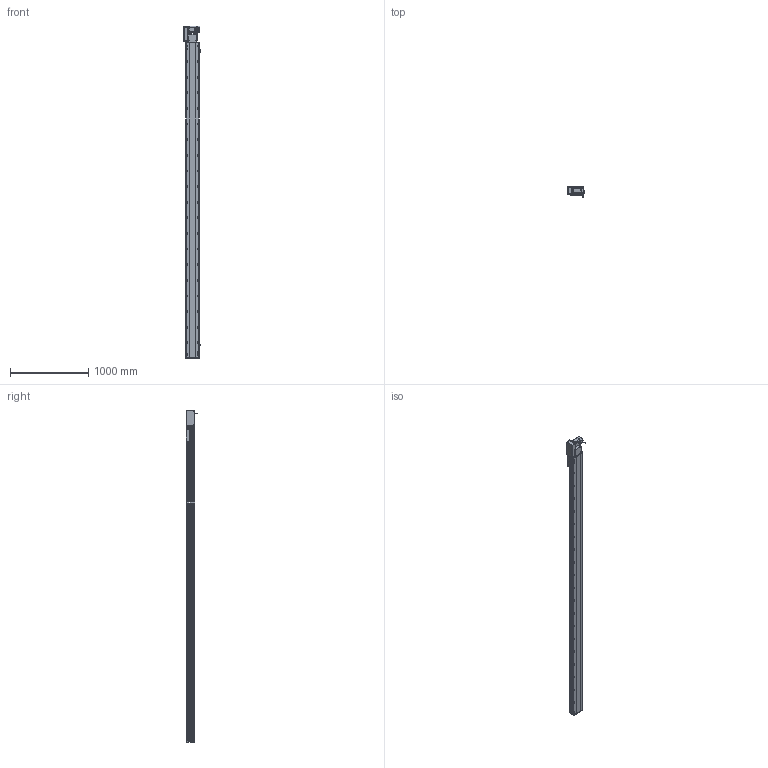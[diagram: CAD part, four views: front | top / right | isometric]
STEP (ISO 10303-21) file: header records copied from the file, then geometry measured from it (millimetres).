
FILE_DESCRIPTION (( 'STEP AP214' ), '1' );
FILE_NAME ('RTB17S-XX-3750-L-M75-C4.STEP', '2025-12-12T00:29:23', ( '' ), ( '' ), 'SwSTEP 2.0', 'SolidWorks 2018', '' );
FILE_SCHEMA (( 'AUTOMOTIVE_DESIGN' ));
Length unit declared in the file: millimetre
Products named in the file (15): RTB22S-GY-017P^RTB17S-L-々湍釱蚾饜-750W_RTB17S-XX-XX-L-M75-C4; RTH13-BL-012覜茼え俋离^RTB17S-賑釱_RTB17S-XX-XX-L-M75-C4; RTB22S-GY-005P^RTB17S-L-々湍釱蚾饜-750W_RTB17S-XX-XX-L-M75-C4; RTB22S-GY-008-M75--萇儂啣^RTB17S-L-々湍釱蚾饜-750W_RTB17S-XX-XX-L-M75-C4; RTB17S-L-々湍釱蚾饜-750W^RTB17S-XX-XX-L-M75-C4; RTB17S-賑釱^RTB17S-XX-XX-L-M75-C4; RTB17S-L-001-耜醱啣^RTB17S-XX-XX-L-M75-C4; RMP17S-L-014-T20-P75--々湍釱^RTB17S-L-々湍釱蚾饜-750W_RTB17S-XX-XX-L-M75-C4; 750W萇儂^RTB17S-XX-XX-L-M75-C4; RTB17S-L-007奻裔^RTB17S-XX-XX-L-M75-C4; RTB17S-L-004-賑釱^RTB17S-賑釱_RTB17S-XX-XX-L-M75-C4; EE672^RTB17S-XX-XX-L-M75-C4; RTB17S-XX-3750-L-M75-C4; RTB17-R-011菁釱^RTB17S-XX-XX-L-M75-C4; RTB22S-GY-018P^RTB17S-L-々湍釱蚾饜-750W_RTB17S-XX-XX-L-M75-C4
Assembly tree (17 placements, depth 3):
  RTB17S-XX-3750-L-M75-C4
    RTB17-R-011菁釱^RTB17S-XX-XX-L-M75-C4
    EE672^RTB17S-XX-XX-L-M75-C4  x3
    RTB17S-L-001-耜醱啣^RTB17S-XX-XX-L-M75-C4
    RTB17S-賑釱^RTB17S-XX-XX-L-M75-C4
      RTB17S-L-004-賑釱^RTB17S-賑釱_RTB17S-XX-XX-L-M75-C4
      RTH13-BL-012覜茼え俋离^RTB17S-賑釱_RTB17S-XX-XX-L-M75-C4
    RTB17S-L-007奻裔^RTB17S-XX-XX-L-M75-C4
    750W萇儂^RTB17S-XX-XX-L-M75-C4
    RTB17S-L-々湍釱蚾饜-750W^RTB17S-XX-XX-L-M75-C4
      RMP17S-L-014-T20-P75--々湍釱^RTB17S-L-々湍釱蚾饜-750W_RTB17S-XX-XX-L-M75-C4
      RTB22S-GY-005P^RTB17S-L-々湍釱蚾饜-750W_RTB17S-XX-XX-L-M75-C4
      RTB22S-GY-017P^RTB17S-L-々湍釱蚾饜-750W_RTB17S-XX-XX-L-M75-C4  x2
      RTB22S-GY-008-M75--萇儂啣^RTB17S-L-々湍釱蚾饜-750W_RTB17S-XX-XX-L-M75-C4
      RTB22S-GY-018P^RTB17S-L-々湍釱蚾饜-750W_RTB17S-XX-XX-L-M75-C4
Bounding box: 210.4 x 152.7 x 4249 mm (x, y, z)
Volume: 29391825.9 mm3; surface area: 5448824.4 mm2
Topology: 17 solids, 17 shells, 2313 faces, 6538 edges, 4238 vertices
Faces by surface type: plane 998, cylinder 899, bspline 294, cone 110, sphere 8, torus 4
Entity records: 68854 total; most frequent: CARTESIAN_POINT 20602, ORIENTED_EDGE 9920, DIRECTION 9122, EDGE_CURVE 4960, AXIS2_PLACEMENT_3D 3258, VERTEX_POINT 3242, VECTOR 2606, LINE 2606
